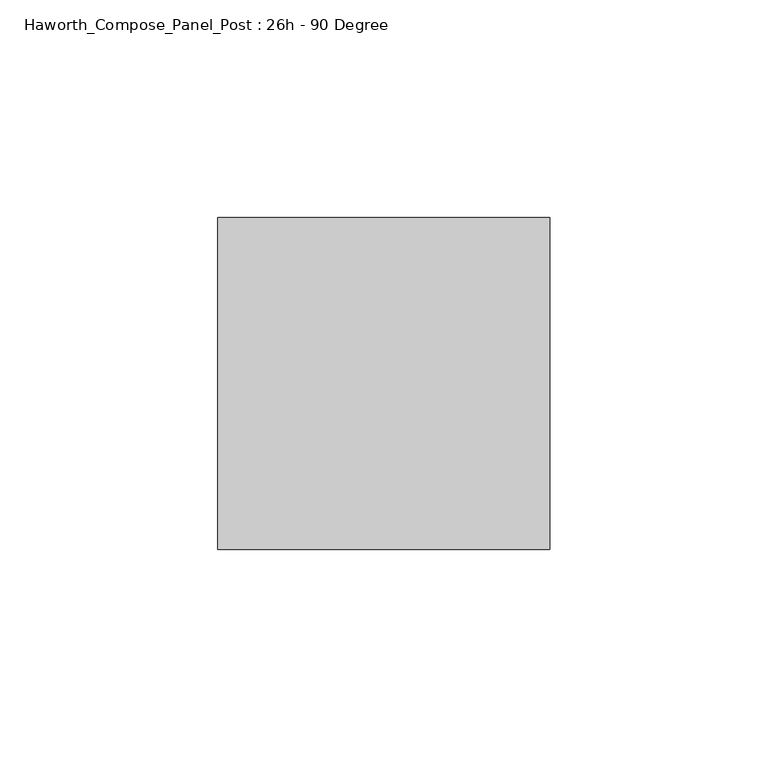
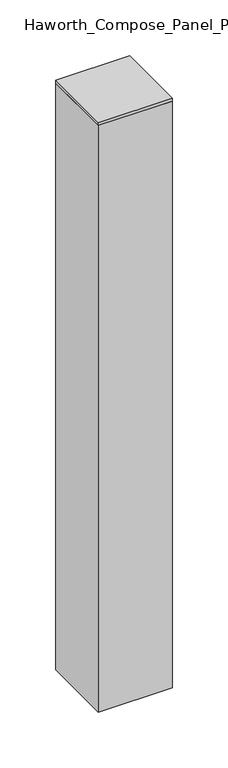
"""IFC4 building model written with IfcOpenShell, lengths in millimetres: furniture geometry, Haworth_Compose_Panel_Post : 26h - 90 Degree."""

from ifc_helpers import new_model, si_unit, frame, origin, place, context, project, spatial, polyline, outline, extrude, source, transform, mapped, element, save


def haworth_compose_panel_post_26h_90_degree_7922b5fd(model_context):
    return source(origin(), model_context, "Body", "SweptSolid", [
        extrude(outline(polyline([(0.0, 38.1), (76.2, 38.1), (76.2, -38.1), (0.0, -38.1), (0.0, 38.1)])), frame((0.0, 0.0, 654.05), z_axis=(0.0, 0.0, 1.0), x_axis=(1.0, 0.0, 0.0)), (0.0, 0.0, 1.0), 3.175),
        extrude(outline(polyline([(76.2, 38.1), (76.2, -38.1), (0.0, -38.1), (0.0, 38.1), (76.2, 38.1)])), frame((0.0, 0.0, 12.7), z_axis=(0.0, 0.0, 1.0), x_axis=(1.0, 0.0, 0.0)), (0.0, 0.0, 1.0), 641.35),
    ])


if __name__ == "__main__":
    model = new_model("IFC4")
    model_context = context("Model", 3, world=origin())
    ifc_project = project(units=[si_unit("LENGTHUNIT", "METRE", prefix="MILLI")], contexts=[model_context])
    site = spatial("IfcSite", under=ifc_project)
    building = spatial("IfcBuilding", under=site)
    placement = place(None, origin())
    haworth_compose_panel_post_26h_90_degree_shape = haworth_compose_panel_post_26h_90_degree_7922b5fd(model_context)
    element("IfcFurniture", 1, ObjectType="Haworth_Compose_Panel_Post : 26h - 90 Degree", at=placement, inside=building, context=model_context, shape_type="MappedRepresentation", body=[
        mapped(haworth_compose_panel_post_26h_90_degree_shape, transform((0.0, 0.0, 0.0), x_axis=(1.0, 0.0, 0.0), y_axis=(0.0, 1.0, 0.0), z_axis=(0.0, 0.0, 1.0))),
    ])
    save(model, "model.ifc")
